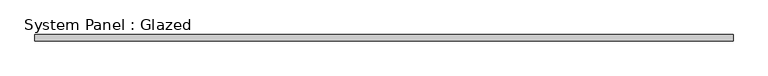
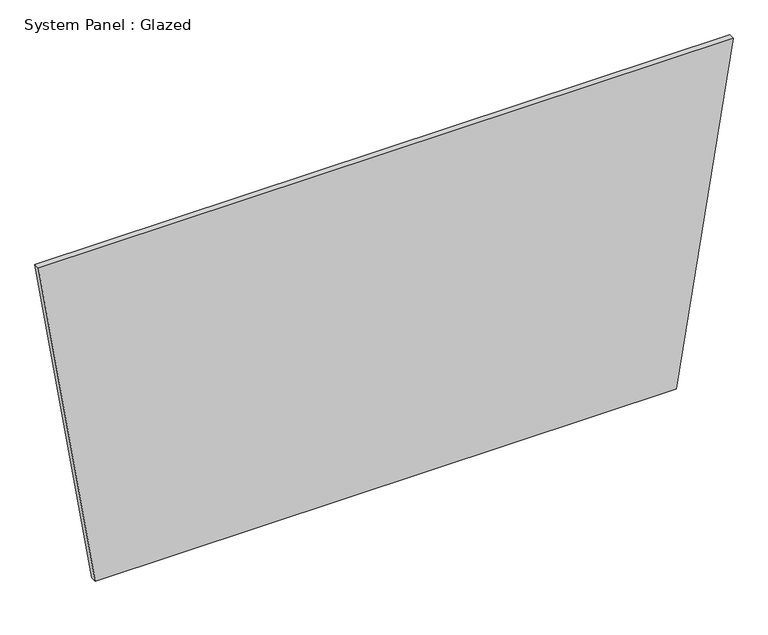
"""IFC4 building model written with IfcOpenShell, lengths in millimetres: plate geometry, System Panel : Glazed."""

from ifc_helpers import new_model, si_unit, frame, origin, place, context, project, spatial, polyline, outline, extrude, source, transform, mapped, element, save


def system_panel_glazed_a0e9b47a(model_context):
    return source(origin(), model_context, "Body", "SweptSolid", [
        extrude(outline(polyline([(0.0, -1192.9059643), (0.0, 1192.9059643), (1441.0018398, 1425.6521384), (1441.0018398, -1425.6521384), (0.0, -1192.9059643)])), frame((0.0, -44.45, 0.0), z_axis=(0.0, 1.0, 0.0), x_axis=(0.0, 0.0, 1.0)), (0.0, 0.0, 1.0), 25.4),
    ])


if __name__ == "__main__":
    model = new_model("IFC4")
    model_context = context("Model", 3, world=origin())
    ifc_project = project(units=[si_unit("LENGTHUNIT", "METRE", prefix="MILLI")], contexts=[model_context])
    site = spatial("IfcSite", under=ifc_project)
    building = spatial("IfcBuilding", under=site)
    placement = place(None, origin())
    system_panel_glazed_shape = system_panel_glazed_a0e9b47a(model_context)
    element("IfcPlate", 1, ObjectType="System Panel : Glazed", at=placement, inside=building, context=model_context, shape_type="MappedRepresentation", body=[
        mapped(system_panel_glazed_shape, transform((0.0, 0.0, 0.0), x_axis=(1.0, 0.0, 0.0), y_axis=(0.0, 1.0, 0.0), z_axis=(0.0, 0.0, 1.0))),
    ])
    save(model, "model.ifc")
